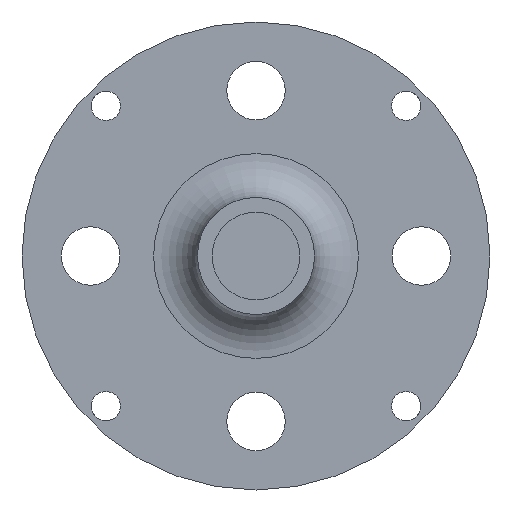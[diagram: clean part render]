
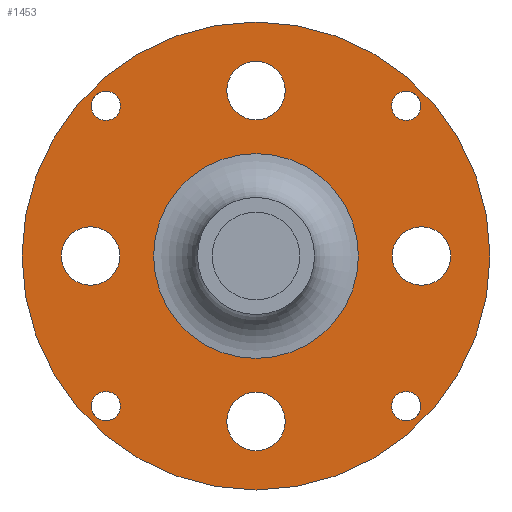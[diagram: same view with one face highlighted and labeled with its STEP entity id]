
A CAD part, left-side view. The second image highlights one B-rep face of the part: STEP entity #1453.
In plain terms, the highlighted planar face has unit normal (-1, 0, 0).
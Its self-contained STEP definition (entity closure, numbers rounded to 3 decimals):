
#70=CARTESIAN_POINT('',(-2.,16.,0.));
#71=VERTEX_POINT('',#70);
#86=CARTESIAN_POINT('',(-2.,0.,0.));
#87=DIRECTION('',(-0.,1.,-0.));
#88=DIRECTION('',(1.,0.,-0.));
#89=AXIS2_PLACEMENT_3D('',#86,#88,#87);
#90=CIRCLE('',#89,16.);
#91=EDGE_CURVE('',#71,#71,#90,.T.);
#162=CARTESIAN_POINT('',(-2.,11.314,-2.));
#163=VERTEX_POINT('',#162);
#170=CARTESIAN_POINT('',(-2.,11.314,0.));
#171=DIRECTION('',(-0.,0.,-1.));
#172=DIRECTION('',(-1.,0.,0.));
#173=AXIS2_PLACEMENT_3D('',#170,#172,#171);
#174=CIRCLE('',#173,2.);
#175=EDGE_CURVE('',#163,#163,#174,.T.);
#195=CARTESIAN_POINT('',(-2.,-11.314,-2.));
#196=VERTEX_POINT('',#195);
#203=CARTESIAN_POINT('',(-2.,-11.314,0.));
#204=DIRECTION('',(-0.,0.,-1.));
#205=DIRECTION('',(-1.,0.,0.));
#206=AXIS2_PLACEMENT_3D('',#203,#205,#204);
#207=CIRCLE('',#206,2.);
#208=EDGE_CURVE('',#196,#196,#207,.T.);
#228=CARTESIAN_POINT('',(-2.,0.,-13.314));
#229=VERTEX_POINT('',#228);
#236=CARTESIAN_POINT('',(-2.,0.,-11.314));
#237=DIRECTION('',(-0.,0.,-1.));
#238=DIRECTION('',(-1.,0.,0.));
#239=AXIS2_PLACEMENT_3D('',#236,#238,#237);
#240=CIRCLE('',#239,2.);
#241=EDGE_CURVE('',#229,#229,#240,.T.);
#261=CARTESIAN_POINT('',(-2.,0.,9.314));
#262=VERTEX_POINT('',#261);
#269=CARTESIAN_POINT('',(-2.,0.,11.314));
#270=DIRECTION('',(-0.,0.,-1.));
#271=DIRECTION('',(-1.,0.,0.));
#272=AXIS2_PLACEMENT_3D('',#269,#271,#270);
#273=CIRCLE('',#272,2.);
#274=EDGE_CURVE('',#262,#262,#273,.T.);
#1195=CARTESIAN_POINT('',(-2.,-10.266,-11.266));
#1196=VERTEX_POINT('',#1195);
#1203=CARTESIAN_POINT('',(-2.,-10.266,-10.266));
#1204=DIRECTION('',(0.,0.,-1.));
#1205=DIRECTION('',(-1.,0.,0.));
#1206=AXIS2_PLACEMENT_3D('',#1203,#1205,#1204);
#1207=CIRCLE('',#1206,1.);
#1208=EDGE_CURVE('',#1196,#1196,#1207,.T.);
#1239=CARTESIAN_POINT('',(-2.,10.266,-11.266));
#1240=VERTEX_POINT('',#1239);
#1247=CARTESIAN_POINT('',(-2.,10.266,-10.266));
#1248=DIRECTION('',(0.,0.,-1.));
#1249=DIRECTION('',(-1.,0.,0.));
#1250=AXIS2_PLACEMENT_3D('',#1247,#1249,#1248);
#1251=CIRCLE('',#1250,1.);
#1252=EDGE_CURVE('',#1240,#1240,#1251,.T.);
#1271=CARTESIAN_POINT('',(-2.,10.266,9.266));
#1272=VERTEX_POINT('',#1271);
#1279=CARTESIAN_POINT('',(-2.,10.266,10.266));
#1280=DIRECTION('',(0.,0.,-1.));
#1281=DIRECTION('',(-1.,0.,0.));
#1282=AXIS2_PLACEMENT_3D('',#1279,#1281,#1280);
#1283=CIRCLE('',#1282,1.);
#1284=EDGE_CURVE('',#1272,#1272,#1283,.T.);
#1308=CARTESIAN_POINT('',(-2.,-10.266,9.266));
#1309=VERTEX_POINT('',#1308);
#1316=CARTESIAN_POINT('',(-2.,-10.266,10.266));
#1317=DIRECTION('',(0.,0.,-1.));
#1318=DIRECTION('',(-1.,0.,0.));
#1319=AXIS2_PLACEMENT_3D('',#1316,#1318,#1317);
#1320=CIRCLE('',#1319,1.);
#1321=EDGE_CURVE('',#1309,#1309,#1320,.T.);
#1410=CARTESIAN_POINT('',(-2.,0.,0.));
#1411=DIRECTION('',(0.,1.,0.));
#1412=DIRECTION('',(-1.,0.,0.));
#1413=AXIS2_PLACEMENT_3D('',#1410,#1412,#1411);
#1414=PLANE('',#1413);
#1415=ORIENTED_EDGE('',*,*,#91,.F.);
#1416=EDGE_LOOP('',(#1415));
#1417=FACE_OUTER_BOUND('',#1416,.T.);
#1418=ORIENTED_EDGE('',*,*,#274,.F.);
#1419=EDGE_LOOP('',(#1418));
#1420=FACE_BOUND('',#1419,.T.);
#1421=ORIENTED_EDGE('',*,*,#241,.F.);
#1422=EDGE_LOOP('',(#1421));
#1423=FACE_BOUND('',#1422,.T.);
#1424=ORIENTED_EDGE('',*,*,#208,.F.);
#1425=EDGE_LOOP('',(#1424));
#1426=FACE_BOUND('',#1425,.T.);
#1427=ORIENTED_EDGE('',*,*,#175,.F.);
#1428=EDGE_LOOP('',(#1427));
#1429=FACE_BOUND('',#1428,.T.);
#1430=ORIENTED_EDGE('',*,*,#1208,.F.);
#1431=EDGE_LOOP('',(#1430));
#1432=FACE_BOUND('',#1431,.T.);
#1433=ORIENTED_EDGE('',*,*,#1252,.F.);
#1434=EDGE_LOOP('',(#1433));
#1435=FACE_BOUND('',#1434,.T.);
#1436=ORIENTED_EDGE('',*,*,#1284,.F.);
#1437=EDGE_LOOP('',(#1436));
#1438=FACE_BOUND('',#1437,.T.);
#1439=ORIENTED_EDGE('',*,*,#1321,.F.);
#1440=EDGE_LOOP('',(#1439));
#1441=FACE_BOUND('',#1440,.T.);
#1442=CARTESIAN_POINT('',(-2.,7.,0.));
#1443=VERTEX_POINT('',#1442);
#1444=CARTESIAN_POINT('',(-2.,0.,0.));
#1445=DIRECTION('',(0.,1.,0.));
#1446=DIRECTION('',(1.,0.,0.));
#1447=AXIS2_PLACEMENT_3D('',#1444,#1446,#1445);
#1448=CIRCLE('',#1447,7.);
#1449=EDGE_CURVE('',#1443,#1443,#1448,.T.);
#1450=ORIENTED_EDGE('E128',*,*,#1449,.T.);
#1451=EDGE_LOOP('',(#1450));
#1452=FACE_BOUND('',#1451,.T.);
#1453=ADVANCED_FACE('F8',(#1417,#1420,#1423,#1426,#1429,#1432,#1435,#1438,#1441,#1452),#1414,.T.);
